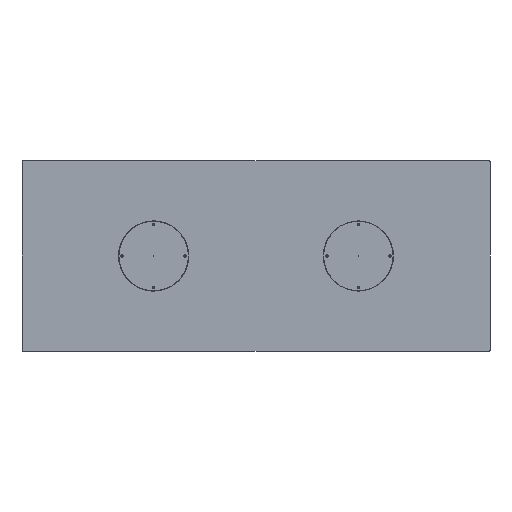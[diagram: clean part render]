
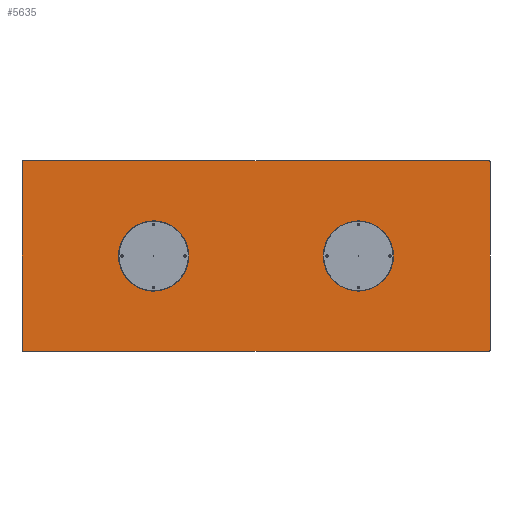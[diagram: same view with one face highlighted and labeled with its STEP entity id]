
A CAD part, front view. The second image highlights one B-rep face of the part: STEP entity #5635.
In plain terms, the highlighted planar face has unit normal (0, -1, 0).
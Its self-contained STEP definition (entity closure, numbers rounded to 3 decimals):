
#362 = AXIS2_PLACEMENT_3D ( 'NONE', #4239, #9189, #6417 ) ;
#564 = DIRECTION ( 'NONE',  ( 0., 1., 0. ) ) ;
#737 = CARTESIAN_POINT ( 'NONE',  ( -1595., 0., -645. ) ) ;
#742 = ORIENTED_EDGE ( 'NONE', *, *, #10238, .T. ) ;
#808 = CARTESIAN_POINT ( 'NONE',  ( -1600., 0., -645. ) ) ;
#1230 = AXIS2_PLACEMENT_3D ( 'NONE', #1705, #564, #1577 ) ;
#1233 = VERTEX_POINT ( 'NONE', #9153 ) ;
#1258 = VECTOR ( 'NONE', #7851, 1000. ) ;
#1577 = DIRECTION ( 'NONE',  ( 0., 0., 1. ) ) ;
#1604 = LINE ( 'NONE', #11706, #10576 ) ;
#1705 = CARTESIAN_POINT ( 'NONE',  ( 0., 0., 0. ) ) ;
#1877 = DIRECTION ( 'NONE',  ( 0., 0., 1. ) ) ;
#2034 = CARTESIAN_POINT ( 'NONE',  ( 1595., 0., -645. ) ) ;
#2240 = CARTESIAN_POINT ( 'NONE',  ( -1595., 0., -650. ) ) ;
#2342 = LINE ( 'NONE', #8178, #3094 ) ;
#2484 = VERTEX_POINT ( 'NONE', #2645 ) ;
#2624 = LINE ( 'NONE', #8645, #1258 ) ;
#2645 = CARTESIAN_POINT ( 'NONE',  ( -1595., 0., 650. ) ) ;
#2828 = CARTESIAN_POINT ( 'NONE',  ( 1600., 0., -645. ) ) ;
#3094 = VECTOR ( 'NONE', #10275, 1000. ) ;
#3103 = ORIENTED_EDGE ( 'NONE', *, *, #6092, .T. ) ;
#3285 = VERTEX_POINT ( 'NONE', #2828 ) ;
#3288 = CARTESIAN_POINT ( 'NONE',  ( 1600., 0., -650. ) ) ;
#3481 = ORIENTED_EDGE ( 'NONE', *, *, #7729, .F. ) ;
#3613 = CIRCLE ( 'NONE', #11422, 5. ) ;
#3792 = VECTOR ( 'NONE', #7325, 1000. ) ;
#3933 = DIRECTION ( 'NONE',  ( 0., 0., 1. ) ) ;
#4239 = CARTESIAN_POINT ( 'NONE',  ( -1595., 0., 645. ) ) ;
#4293 = LINE ( 'NONE', #3288, #3792 ) ;
#4418 = CIRCLE ( 'NONE', #362, 5. ) ;
#4449 = ORIENTED_EDGE ( 'NONE', *, *, #6698, .F. ) ;
#4996 = VERTEX_POINT ( 'NONE', #7564 ) ;
#5134 = CARTESIAN_POINT ( 'NONE',  ( 1595., 0., 645. ) ) ;
#5475 = CARTESIAN_POINT ( 'NONE',  ( -1600., 0., 645. ) ) ;
#5635 = ADVANCED_FACE ( 'NONE', ( #11743 ), #8607, .F. ) ;
#5643 = DIRECTION ( 'NONE',  ( 1., 0., 0. ) ) ;
#6037 = ORIENTED_EDGE ( 'NONE', *, *, #12422, .F. ) ;
#6092 = EDGE_CURVE ( 'NONE', #2484, #7577, #4418, .T. ) ;
#6417 = DIRECTION ( 'NONE',  ( 0., 0., 1. ) ) ;
#6698 = EDGE_CURVE ( 'NONE', #1233, #3285, #4293, .T. ) ;
#7325 = DIRECTION ( 'NONE',  ( 0., 0., -1. ) ) ;
#7564 = CARTESIAN_POINT ( 'NONE',  ( 1595., 0., -650. ) ) ;
#7577 = VERTEX_POINT ( 'NONE', #5475 ) ;
#7647 = EDGE_CURVE ( 'NONE', #7687, #11632, #12243, .T. ) ;
#7687 = VERTEX_POINT ( 'NONE', #808 ) ;
#7729 = EDGE_CURVE ( 'NONE', #7687, #7577, #2624, .T. ) ;
#7851 = DIRECTION ( 'NONE',  ( 0., 0., 1. ) ) ;
#7865 = CIRCLE ( 'NONE', #10192, 5. ) ;
#7999 = DIRECTION ( 'NONE',  ( 0., -1., 0. ) ) ;
#8178 = CARTESIAN_POINT ( 'NONE',  ( -1600., 0., -650. ) ) ;
#8297 = EDGE_CURVE ( 'NONE', #2484, #8762, #1604, .T. ) ;
#8376 = EDGE_CURVE ( 'NONE', #1233, #8762, #3613, .T. ) ;
#8607 = PLANE ( 'NONE',  #1230 ) ;
#8645 = CARTESIAN_POINT ( 'NONE',  ( -1600., 0., -650. ) ) ;
#8762 = VERTEX_POINT ( 'NONE', #9664 ) ;
#8836 = ORIENTED_EDGE ( 'NONE', *, *, #8376, .T. ) ;
#8984 = DIRECTION ( 'NONE',  ( 0., 0., 1. ) ) ;
#9089 = AXIS2_PLACEMENT_3D ( 'NONE', #737, #9884, #1877 ) ;
#9153 = CARTESIAN_POINT ( 'NONE',  ( 1600., 0., 645. ) ) ;
#9189 = DIRECTION ( 'NONE',  ( 0., -1., 0. ) ) ;
#9490 = ORIENTED_EDGE ( 'NONE', *, *, #8297, .F. ) ;
#9664 = CARTESIAN_POINT ( 'NONE',  ( 1595., 0., 650. ) ) ;
#9884 = DIRECTION ( 'NONE',  ( 0., -1., 0. ) ) ;
#10192 = AXIS2_PLACEMENT_3D ( 'NONE', #2034, #7999, #8984 ) ;
#10238 = EDGE_CURVE ( 'NONE', #4996, #3285, #7865, .T. ) ;
#10275 = DIRECTION ( 'NONE',  ( -1., 0., 0. ) ) ;
#10345 = EDGE_LOOP ( 'NONE', ( #4449, #8836, #9490, #3103, #3481, #12659, #6037, #742 ) ) ;
#10576 = VECTOR ( 'NONE', #5643, 1000. ) ;
#11422 = AXIS2_PLACEMENT_3D ( 'NONE', #5134, #12118, #3933 ) ;
#11632 = VERTEX_POINT ( 'NONE', #2240 ) ;
#11706 = CARTESIAN_POINT ( 'NONE',  ( -1600., 0., 650. ) ) ;
#11743 = FACE_OUTER_BOUND ( 'NONE', #10345, .T. ) ;
#12118 = DIRECTION ( 'NONE',  ( 0., -1., 0. ) ) ;
#12243 = CIRCLE ( 'NONE', #9089, 5. ) ;
#12422 = EDGE_CURVE ( 'NONE', #4996, #11632, #2342, .T. ) ;
#12659 = ORIENTED_EDGE ( 'NONE', *, *, #7647, .T. ) ;
